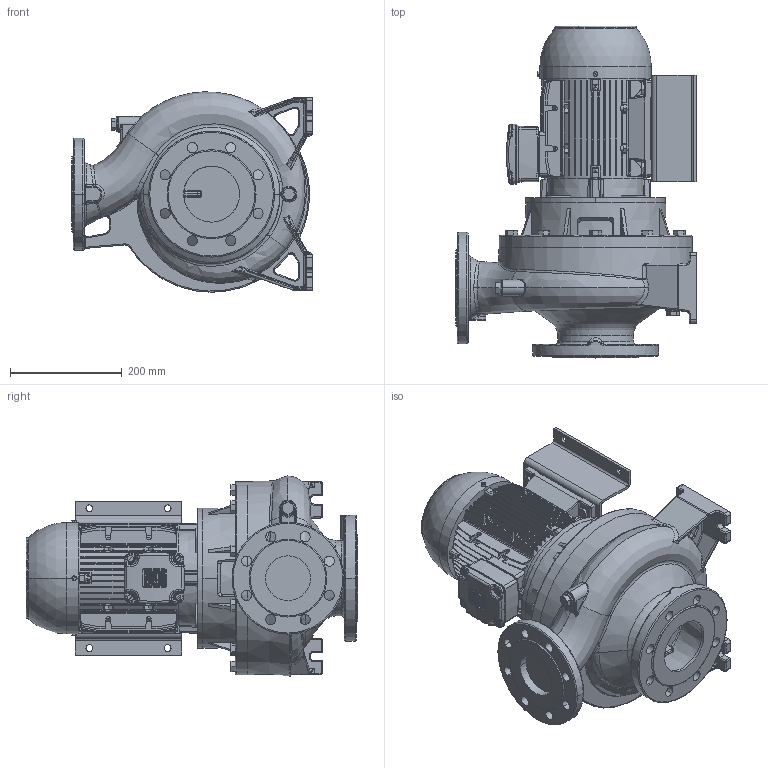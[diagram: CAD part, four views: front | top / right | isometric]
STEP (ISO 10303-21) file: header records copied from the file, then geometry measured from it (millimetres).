
FILE_DESCRIPTION (( 'STEP AP214' ), '1' );
FILE_NAME ('3LS4 80-200_3.0_(100L)_W21.STEP', '2026-10-05T01:39:34', ( '' ), ( '' ), 'SwSTEP 2.0', 'SolidWorks 2024', '' );
FILE_SCHEMA (( 'AUTOMOTIVE_DESIGN' ));
Length unit declared in the file: inch
Products named in the file (3): 3SF4_80-200_3; 100L ALIE3_W21T_B35; 3LS4 80-200_3.0_(100L)_W21
Assembly tree (2 placements, depth 2):
  3LS4 80-200_3.0_(100L)_W21
    3SF4_80-200_3
    100L ALIE3_W21T_B35
Bounding box: 430 x 593.05 x 358.05 mm (x, y, z)
Volume: 24905720.1 mm3; surface area: 1698699.6 mm2
Topology: 8 solids, 8 shells, 3544 faces, 9125 edges, 5798 vertices
Faces by surface type: plane 2111, cylinder 696, bspline 325, torus 237, cone 138, sphere 37
Entity records: 171390 total; most frequent: CARTESIAN_POINT 88630, ORIENTED_EDGE 18190, DIRECTION 15590, EDGE_CURVE 9095, VERTEX_POINT 5794, LINE 5610, VECTOR 5610, AXIS2_PLACEMENT_3D 4990
